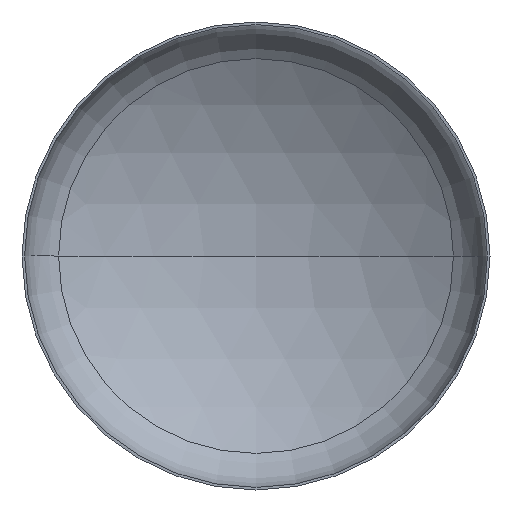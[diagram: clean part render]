
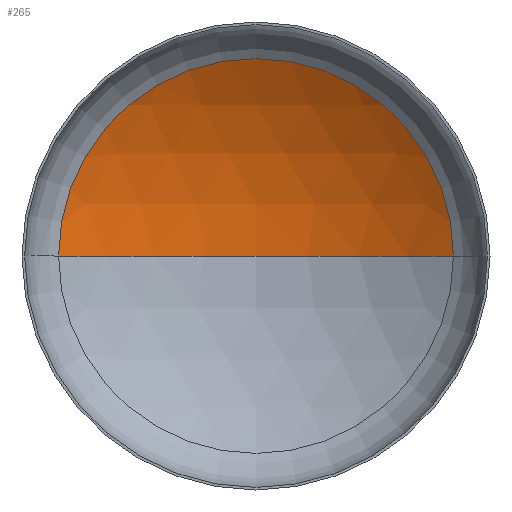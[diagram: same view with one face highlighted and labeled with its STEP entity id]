
A CAD part, front view. The second image highlights one B-rep face of the part: STEP entity #265.
In plain terms, the highlighted spherical face has radius 6400 mm.
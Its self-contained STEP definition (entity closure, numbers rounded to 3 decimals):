
#16 = AXIS2_PLACEMENT_3D ( 'NONE', #66, #145, #73 ) ;
#30 = VERTEX_POINT ( 'NONE', #344 ) ;
#37 = AXIS2_PLACEMENT_3D ( 'NONE', #153, #345, #342 ) ;
#39 = AXIS2_PLACEMENT_3D ( 'NONE', #191, #192, #162 ) ;
#40 = AXIS2_PLACEMENT_3D ( 'NONE', #289, #211, #210 ) ;
#51 = VERTEX_POINT ( 'NONE', #254 ) ;
#66 = CARTESIAN_POINT ( 'NONE',  ( 0., -4252.929, 0. ) ) ;
#68 = ORIENTED_EDGE ( 'NONE', *, *, #89, .F. ) ;
#73 = DIRECTION ( 'NONE',  ( -1., 0., 0. ) ) ;
#78 = CIRCLE ( 'NONE', #39, 6400. ) ;
#85 = EDGE_CURVE ( 'NONE', #292, #30, #201, .T. ) ;
#86 = EDGE_CURVE ( 'NONE', #51, #292, #78, .T. ) ;
#89 = EDGE_CURVE ( 'NONE', #51, #30, #384, .T. ) ;
#112 = CARTESIAN_POINT ( 'NONE',  ( 3374.545, 1185.126, 0. ) ) ;
#145 = DIRECTION ( 'NONE',  ( 0., 0., -1. ) ) ;
#153 = CARTESIAN_POINT ( 'NONE',  ( 0., -4252.929, 0. ) ) ;
#162 = DIRECTION ( 'NONE',  ( -1., 0., 0. ) ) ;
#164 = FACE_OUTER_BOUND ( 'NONE', #207, .T. ) ;
#191 = CARTESIAN_POINT ( 'NONE',  ( 0., -4252.929, 0. ) ) ;
#192 = DIRECTION ( 'NONE',  ( 0., 0., -1. ) ) ;
#198 = ORIENTED_EDGE ( 'NONE', *, *, #85, .T. ) ;
#201 = CIRCLE ( 'NONE', #40, 3374.545 ) ;
#207 = EDGE_LOOP ( 'NONE', ( #68, #219, #198 ) ) ;
#210 = DIRECTION ( 'NONE',  ( 1., 0., 0. ) ) ;
#211 = DIRECTION ( 'NONE',  ( 0., -1., 0. ) ) ;
#219 = ORIENTED_EDGE ( 'NONE', *, *, #86, .T. ) ;
#254 = CARTESIAN_POINT ( 'NONE',  ( 0., 2147.071, 0. ) ) ;
#265 = ADVANCED_FACE ( 'NONE', ( #164 ), #308, .F. ) ;
#289 = CARTESIAN_POINT ( 'NONE',  ( 0., 1185.126, 0. ) ) ;
#292 = VERTEX_POINT ( 'NONE', #112 ) ;
#308 = SPHERICAL_SURFACE ( 'NONE', #16, 6400. ) ;
#342 = DIRECTION ( 'NONE',  ( 1., 0., 0. ) ) ;
#344 = CARTESIAN_POINT ( 'NONE',  ( -3374.545, 1185.126, 0. ) ) ;
#345 = DIRECTION ( 'NONE',  ( 0., 0., 1. ) ) ;
#384 = CIRCLE ( 'NONE', #37, 6400. ) ;
